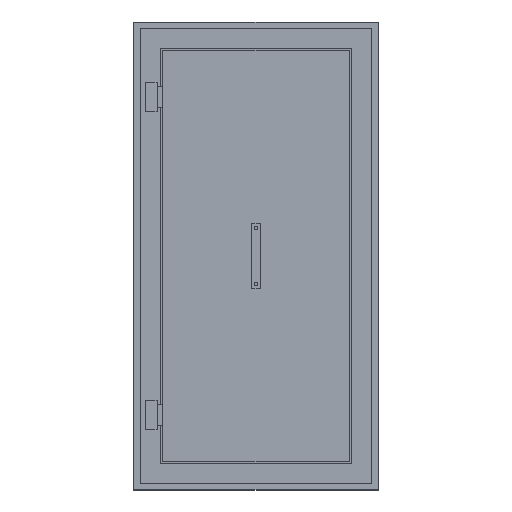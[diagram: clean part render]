
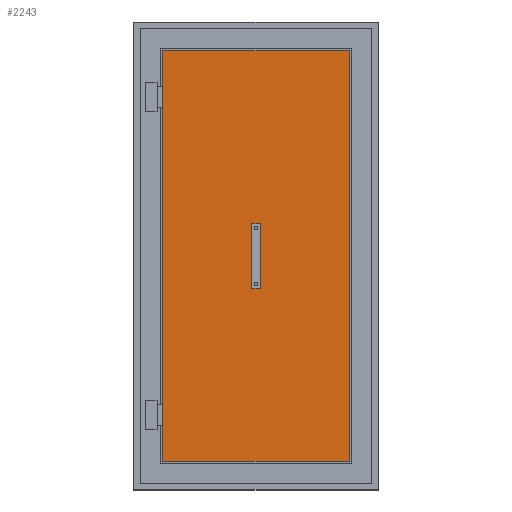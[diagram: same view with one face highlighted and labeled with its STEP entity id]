
A CAD part, top view. The second image highlights one B-rep face of the part: STEP entity #2243.
In plain terms, the highlighted planar face has unit normal (0, 0, 1).
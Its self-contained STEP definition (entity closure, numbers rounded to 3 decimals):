
#747=DIRECTION('',(0.,-1.,0.));
#748=VECTOR('',#747,1832.);
#749=CARTESIAN_POINT('',(-416.,916.,-41.));
#750=LINE('',#749,#748);
#751=DIRECTION('',(-1.,0.,0.));
#752=VECTOR('',#751,832.);
#753=CARTESIAN_POINT('',(416.,916.,-41.));
#754=LINE('',#753,#752);
#755=DIRECTION('',(0.,1.,0.));
#756=VECTOR('',#755,1832.);
#757=CARTESIAN_POINT('',(416.,-916.,-41.));
#758=LINE('',#757,#756);
#759=DIRECTION('',(1.,0.,0.));
#760=VECTOR('',#759,832.);
#761=CARTESIAN_POINT('',(-416.,-916.,-41.));
#762=LINE('',#761,#760);
#763=CARTESIAN_POINT('',(0.,0.,-41.));
#764=DIRECTION('',(0.,0.,1.));
#765=DIRECTION('',(1.,0.,0.));
#766=AXIS2_PLACEMENT_3D('',#763,#764,#765);
#768=CARTESIAN_POINT('',(0.,0.,-41.));
#769=DIRECTION('',(0.,0.,1.));
#770=DIRECTION('',(-1.,0.,0.));
#771=AXIS2_PLACEMENT_3D('',#768,#769,#770);
#985=CARTESIAN_POINT('',(-416.,916.,-41.));
#986=CARTESIAN_POINT('',(-416.,-916.,-41.));
#987=VERTEX_POINT('',#985);
#988=VERTEX_POINT('',#986);
#989=CARTESIAN_POINT('',(416.,-916.,-41.));
#990=VERTEX_POINT('',#989);
#991=CARTESIAN_POINT('',(416.,916.,-41.));
#992=VERTEX_POINT('',#991);
#1153=CARTESIAN_POINT('',(20.,0.,-41.));
#1154=CARTESIAN_POINT('',(-20.,0.,-41.));
#1155=VERTEX_POINT('',#1153);
#1156=VERTEX_POINT('',#1154);
#2224=CARTESIAN_POINT('',(0.,0.,-41.));
#2225=DIRECTION('',(0.,0.,1.));
#2226=DIRECTION('',(1.,0.,0.));
#2227=AXIS2_PLACEMENT_3D('',#2224,#2225,#2226);
#2228=PLANE('',#2227);
#2230=ORIENTED_EDGE('',*,*,#2229,.F.);
#2232=ORIENTED_EDGE('',*,*,#2231,.F.);
#2234=ORIENTED_EDGE('',*,*,#2233,.F.);
#2236=ORIENTED_EDGE('',*,*,#2235,.F.);
#2237=EDGE_LOOP('',(#2230,#2232,#2234,#2236));
#2238=FACE_OUTER_BOUND('',#2237,.F.);
#2239=ORIENTED_EDGE('',*,*,#1799,.T.);
#2240=ORIENTED_EDGE('',*,*,#2206,.T.);
#2241=EDGE_LOOP('',(#2239,#2240));
#2242=FACE_BOUND('',#2241,.F.);
#767=CIRCLE('',#766,20.);
#772=CIRCLE('',#771,20.);
#1799=EDGE_CURVE('',#1155,#1156,#767,.T.);
#2206=EDGE_CURVE('',#1156,#1155,#772,.T.);
#2229=EDGE_CURVE('',#987,#988,#750,.T.);
#2231=EDGE_CURVE('',#992,#987,#754,.T.);
#2233=EDGE_CURVE('',#990,#992,#758,.T.);
#2235=EDGE_CURVE('',#988,#990,#762,.T.);
#2243=ADVANCED_FACE('',(#2238,#2242),#2228,.T.);
